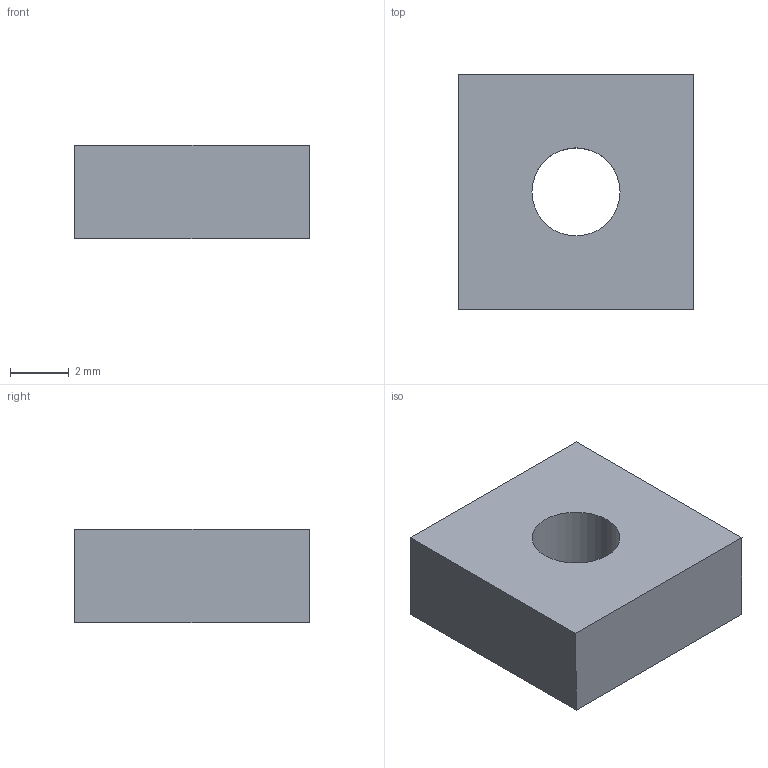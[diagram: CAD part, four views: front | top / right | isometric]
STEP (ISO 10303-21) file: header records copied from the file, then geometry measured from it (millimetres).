
FILE_DESCRIPTION( ( 'STEP AP203' ), '1' );
FILE_NAME( 'C:/NSM-04-3.stp', '2013-10-20T23:49:24', ( ' ' ), ( ' ' ), 'XStep 1.0', ' ', ' ' );
FILE_SCHEMA( ( 'CONFIG_CONTROL_DESIGN' ) );
Length unit declared in the file: metre
Products named in the file (1): 1
Bounding box: 8 x 8 x 3.2 mm (x, y, z)
Volume: 182 mm3; surface area: 246.5 mm2
Topology: 1 solids, 1 shells, 7 faces, 15 edges, 10 vertices
Faces by surface type: bspline 7
Entity records: 243 total; most frequent: CARTESIAN_POINT 63, ORIENTED_EDGE 28, DIRECTION 18, EDGE_CURVE 14, LINE 12, VECTOR 12, EDGE_LOOP 10, VERTEX_POINT 10
